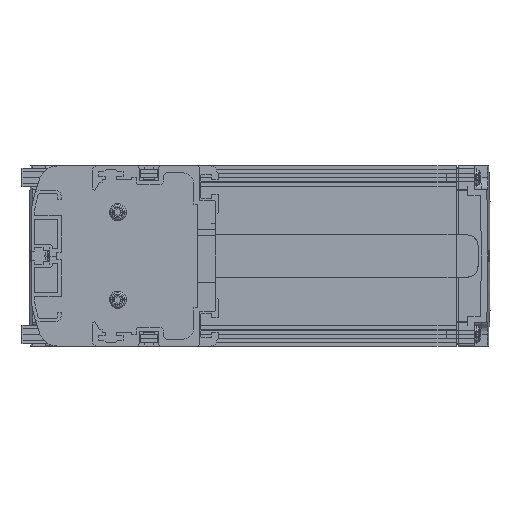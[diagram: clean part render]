
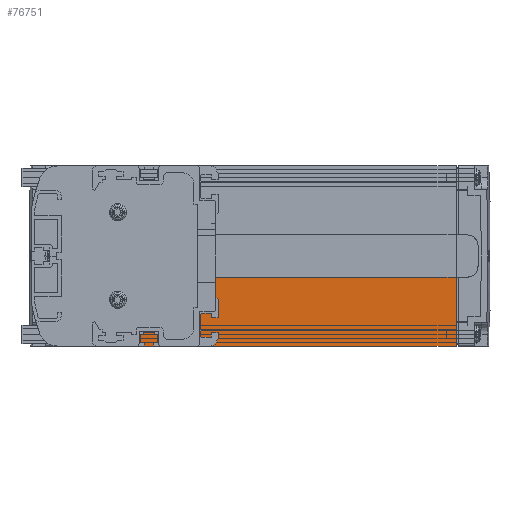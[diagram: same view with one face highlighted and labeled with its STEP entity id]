
A CAD part, left-side view. The second image highlights one B-rep face of the part: STEP entity #76751.
In plain terms, the highlighted planar face has unit normal (-1, 0, 0).
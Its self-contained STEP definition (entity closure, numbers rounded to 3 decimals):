
#74692=DIRECTION('',(0.,1.,0.));
#74693=VECTOR('',#74692,51.);
#74694=CARTESIAN_POINT('',(3.,16.,-27.));
#74695=LINE('',#74694,#74693);
#75341=DIRECTION('',(0.,1.,0.));
#75342=VECTOR('',#75341,170.);
#75343=CARTESIAN_POINT('',(3.,-103.,-39.));
#75344=LINE('',#75343,#75342);
#75359=DIRECTION('',(0.,0.,1.));
#75360=VECTOR('',#75359,29.9);
#75361=CARTESIAN_POINT('',(3.,-103.,-39.));
#75362=LINE('',#75361,#75360);
#75363=DIRECTION('',(0.,0.,-1.));
#75364=VECTOR('',#75363,12.);
#75365=CARTESIAN_POINT('',(3.,67.,-27.));
#75366=LINE('',#75365,#75364);
#75367=DIRECTION('',(0.,0.,-1.));
#75368=VECTOR('',#75367,17.9);
#75369=CARTESIAN_POINT('',(3.,16.,-9.1));
#75370=LINE('',#75369,#75368);
#75477=DIRECTION('',(0.,1.,0.));
#75478=VECTOR('',#75477,119.);
#75479=CARTESIAN_POINT('',(3.,-103.,-9.1));
#75480=LINE('',#75479,#75478);
#75564=CARTESIAN_POINT('',(3.,67.,-27.));
#75566=VERTEX_POINT('',#75564);
#75658=CARTESIAN_POINT('',(3.,67.,-39.));
#75659=VERTEX_POINT('',#75658);
#75732=CARTESIAN_POINT('',(3.,-103.,-39.));
#75733=VERTEX_POINT('',#75732);
#75734=CARTESIAN_POINT('',(3.,-103.,-9.1));
#75735=VERTEX_POINT('',#75734);
#75796=CARTESIAN_POINT('',(3.,16.,-27.));
#75797=VERTEX_POINT('',#75796);
#75798=CARTESIAN_POINT('',(3.,16.,-9.1));
#75799=VERTEX_POINT('',#75798);
#76736=CARTESIAN_POINT('',(3.,-18.,-24.05));
#76737=DIRECTION('',(1.,0.,0.));
#76738=DIRECTION('',(0.,0.,-1.));
#76739=AXIS2_PLACEMENT_3D('',#76736,#76737,#76738);
#76740=PLANE('',#76739);
#76741=ORIENTED_EDGE('',*,*,#75982,.F.);
#76743=ORIENTED_EDGE('',*,*,#76742,.F.);
#76745=ORIENTED_EDGE('',*,*,#76744,.F.);
#76746=ORIENTED_EDGE('',*,*,#76310,.F.);
#76747=ORIENTED_EDGE('',*,*,#76724,.T.);
#76748=ORIENTED_EDGE('',*,*,#75851,.F.);
#76749=EDGE_LOOP('',(#76741,#76743,#76745,#76746,#76747,#76748));
#76750=FACE_OUTER_BOUND('',#76749,.F.);
#76751=ADVANCED_FACE('',(#76750),#76740,.F.);
#75851=EDGE_CURVE('',#75566,#75659,#75366,.T.);
#75982=EDGE_CURVE('',#75797,#75566,#74695,.T.);
#76310=EDGE_CURVE('',#75733,#75735,#75362,.T.);
#76724=EDGE_CURVE('',#75733,#75659,#75344,.T.);
#76742=EDGE_CURVE('',#75799,#75797,#75370,.T.);
#76744=EDGE_CURVE('',#75735,#75799,#75480,.T.);
